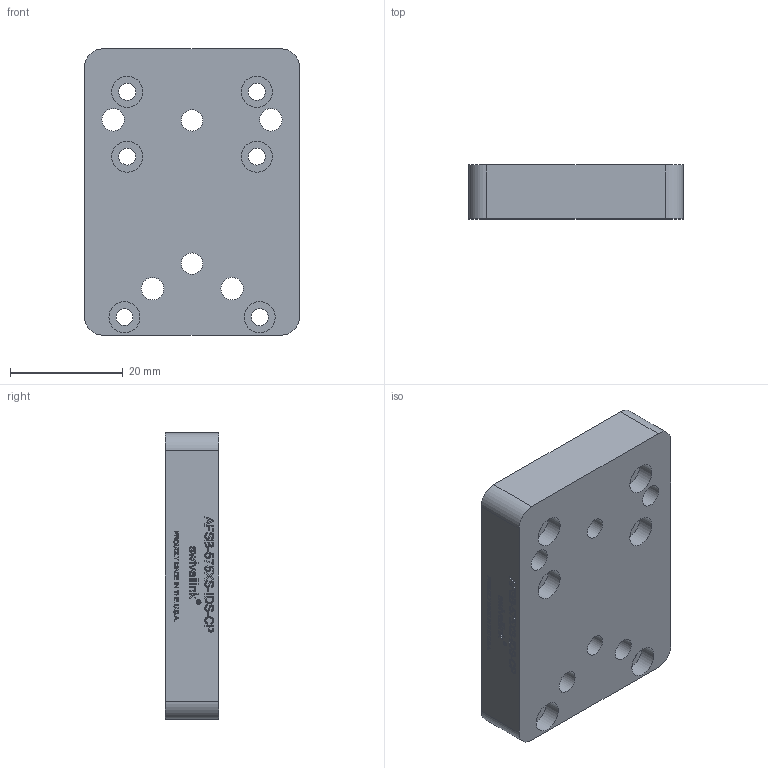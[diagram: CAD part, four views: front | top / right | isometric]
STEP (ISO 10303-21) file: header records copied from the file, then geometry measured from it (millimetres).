
FILE_DESCRIPTION( ( 'Unknown' ), '1' );
FILE_NAME( 'S:/A & P Tool/Start Button Swivel Mount/STP - IGES master files/AFSB-575XS-IDS-CP.stp', 'Unknown', ( 'Unknown' ), ( 'Unknown' ), 'PSStep 16.0.42', 'Unknown', ' ' );
FILE_SCHEMA( ( 'AUTOMOTIVE_DESIGN { 1 0 10303 214 1 1 1 1 }' ) );
Length unit declared in the file: millimetre
Products named in the file (1): 1
Bounding box: 38.1 x 9.53 x 50.8 mm (x, y, z)
Volume: 16533.2 mm3; surface area: 6873.9 mm2
Topology: 1 solids, 1 shells, 858 faces, 2138 edges, 1428 vertices
Faces by surface type: plane 657, extrusion 175, cylinder 26
Full cylindrical faces by diameter (mm): 3 x6, 3.785 x2, 4 x4, 5.5 x6, 7 x4
Entity records: 41315 total; most frequent: CARTESIAN_POINT 16674, ORIENTED_EDGE 4198, DIRECTION 2334, EDGE_CURVE 2099, B_SPLINE_CURVE_WITH_KNOTS 1535, VERTEX_POINT 1420, EDGE_LOOP 1059, FACE_OUTER_BOUND 889
